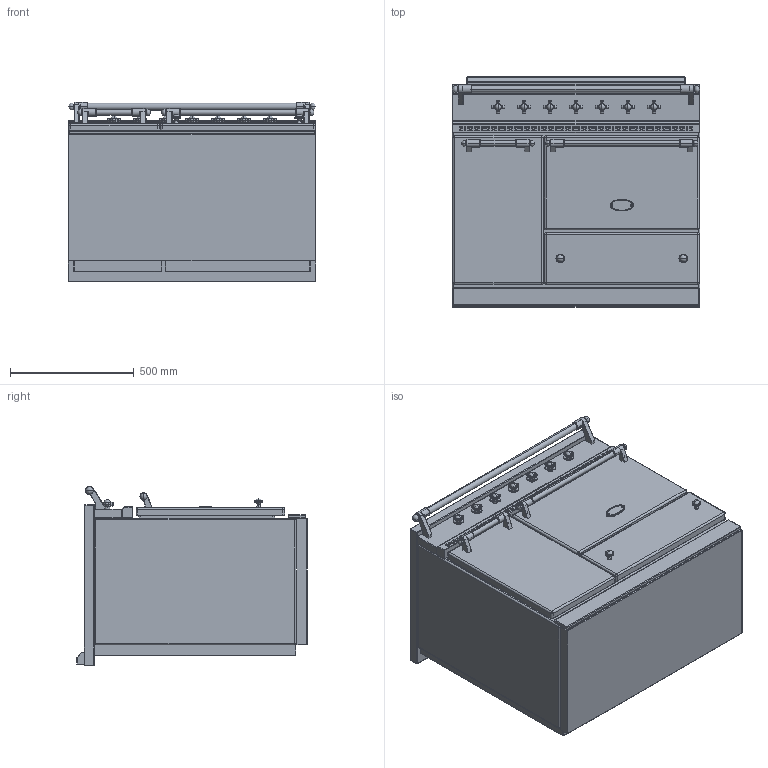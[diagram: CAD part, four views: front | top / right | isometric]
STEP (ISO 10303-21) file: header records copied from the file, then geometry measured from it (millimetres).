
FILE_DESCRIPTION((''),'2;1');
FILE_NAME('LVI1051_VOLNAY_ASM','2014-07-29T',('r.avril'),(''),'PRO/ENGINEER BY PARAMETRIC TECHNOLOGY CORPORATION, 2014090','PRO/ENGINEER BY PARAMETRIC TECHNOLOGY CORPORATION, 2014090','');
FILE_SCHEMA(('AP203_CONFIGURATION_CONTROLLED_3D_DESIGN_OF_MECHANICAL_PARTS_AND_ASSEMBLIES_MIM_LF { 1 0 10303 403 2 1 2 }'));
Products named in the file (17): BASE_EXPORT_VOLNAY; 65650003; 65650004; 6531940; 6531941; 6531943; 65049009; 65650001; 6538399; 1931942; 6518450; 6531942_ASM; BASE_EXPORT_VOLNAY_ASM; TABLE_1000_INDUCTION; 65052013; TABLE_1000_INDUCTION_ASM; LVI1051_VOLNAY_ASM
Assembly tree (25 placements, depth 4):
  LVI1051_VOLNAY_ASM
    BASE_EXPORT_VOLNAY_ASM
      BASE_EXPORT_VOLNAY
      65650003
      65650004
      6531940  x2
      6531941  x2
      6531943  x2
      65049009
      65650001
      6531942_ASM  x7
        6538399
        1931942
        6518450
    TABLE_1000_INDUCTION_ASM
      TABLE_1000_INDUCTION
      65052013
Bounding box: 1000 x 930.5 x 724 mm (x, y, z)
Volume: 526984583.1 mm3; surface area: 8666556.2 mm2
Topology: 34 solids, 42 shells, 3583 faces, 9996 edges, 6765 vertices
Faces by surface type: plane 1982, cylinder 923, extrusion 198, torus 178, sphere 178, cone 62, bspline 50, revolution 12
Entity records: 73562 total; most frequent: CARTESIAN_POINT 13650, DIRECTION 9609, ORIENTED_EDGE 8234, EDGE_CURVE 4127, AXIS2_PLACEMENT_3D 3249, VECTOR 3052, LINE 3022, PRESENTATION_STYLE_ASSIGNMENT 2861
